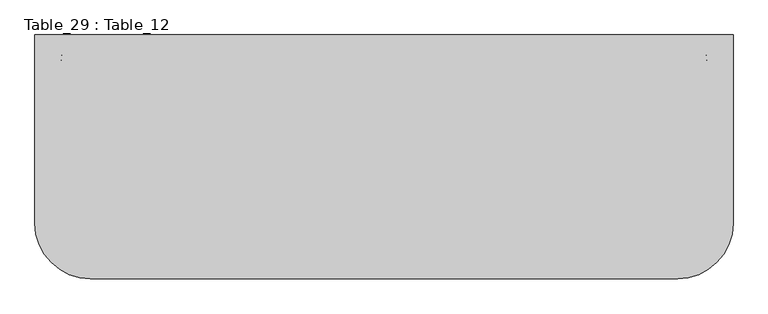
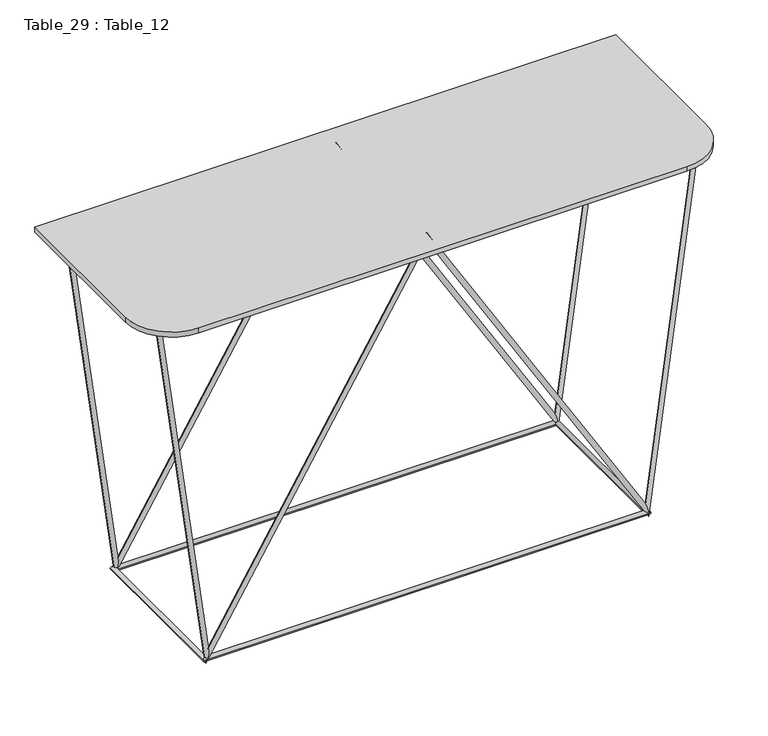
"""IFC4 building model written with IfcOpenShell, lengths in millimetres: furniture geometry, Table_29 : Table_12."""

from ifc_helpers import new_model, si_unit, point, frame, frame_2d, origin, place, context, project, spatial, polyline, circle_curve, ellipse_curve, trimmed, segment, composite_curve, outline, extrude, source, transform, mapped, element, save
from ifc_brep_helpers import plane_surface, cylinder_surface, advanced_brep


def table_29_table_12_be3ec3c2(model_context):
    return source(origin(), model_context, "Body", "SolidModel", [
        advanced_brep(
        [(3216.8861049, 23635.2163811, 4203.6384104), (3226.798891, 23635.2163811, 4204.9562392), (3324.364843, 23635.2163811, 3395.1770046), (3330.5116173, 23635.2163811, 3424.8229954), (3804.7002124, 23635.2163811, 4194.5893047), (3804.7002124, 23635.2163811, 4214.0053449), (4285.0355819, 23635.2163811, 3395.1770046), (4278.8888075, 23635.2163811, 3424.8229954), (4392.5143199, 23635.2163811, 4203.6384104), (4382.6015339, 23635.2163811, 4204.9562392)],
        [
            (0, 1, circle_curve(frame((3221.8424979, 23635.2163811, 4204.2973248), z_axis=(-0.13178288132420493, 0.0, 0.991278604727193), x_axis=(0.991278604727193, 0.0, 0.13178288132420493)), 5.0)),
            (1, 0, circle_curve(frame((3221.8424979, 23635.2163811, 4204.2973248), z_axis=(-0.13178288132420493, 0.0, 0.991278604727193), x_axis=(0.991278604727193, 0.0, 0.13178288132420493)), 5.0)),
            (0, 2),
            (2, 3, ellipse_curve(frame((3327.4382301, 23635.2163811, 3410.0), z_axis=(-0.9791743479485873, 0.0, 0.20302117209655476), x_axis=(0.20302117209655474, 0.0, 0.9791743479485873)), 15.1382595, 5.0)),
            (3, 1),
            (3, 2, ellipse_curve(frame((3327.4382301, 23635.2163811, 3410.0), z_axis=(-0.9791743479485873, 0.0, 0.20302117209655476), x_axis=(0.20302117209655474, 0.0, 0.9791743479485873)), 15.1382595, 5.0)),
            (2, 4),
            (4, 5, ellipse_curve(frame((3804.7002124, 23635.2163811, 4204.2973248), z_axis=(-1.0, 0.0, 0.0), x_axis=(0.0, 0.0, -1.0)), 9.7080201, 5.0)),
            (5, 3),
            (5, 4, ellipse_curve(frame((3804.7002124, 23635.2163811, 4204.2973248), z_axis=(-1.0, 0.0, 0.0), x_axis=(0.0, 0.0, -1.0)), 9.7080201, 5.0)),
            (4, 6),
            (6, 7, ellipse_curve(frame((4281.9621947, 23635.2163811, 3410.0), z_axis=(-0.9791743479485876, 0.0, -0.20302117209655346), x_axis=(-0.20302117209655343, 0.0, 0.9791743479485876)), 15.1382595, 5.0)),
            (7, 5),
            (7, 6, ellipse_curve(frame((4281.9621947, 23635.2163811, 3410.0), z_axis=(-0.9791743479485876, 0.0, -0.20302117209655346), x_axis=(-0.20302117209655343, 0.0, 0.9791743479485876)), 15.1382595, 5.0)),
            (8, 9, circle_curve(frame((4387.5579269, 23635.2163811, 4204.2973248), z_axis=(0.1317828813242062, 0.0, 0.991278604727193), x_axis=(-0.991278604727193, 0.0, 0.1317828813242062)), 5.0)),
            (9, 8, circle_curve(frame((4387.5579269, 23635.2163811, 4204.2973248), z_axis=(0.1317828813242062, 0.0, 0.991278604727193), x_axis=(-0.991278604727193, 0.0, 0.1317828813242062)), 5.0)),
            (6, 8),
            (9, 7),
        ],
        [
            plane_surface(frame((3221.8424979, 23635.2163811, 4204.2973248), z_axis=(-0.13178288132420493, 0.0, 0.991278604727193), x_axis=(0.0, 1.0, 0.0))),
            cylinder_surface(frame((3221.8424979, 23635.2163811, 4204.2973248), z_axis=(-0.13178288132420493, 0.0, 0.991278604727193), x_axis=(0.991278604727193, 0.0, 0.13178288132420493)), 5.0),
            cylinder_surface(frame((3327.4382301, 23635.2163811, 3410.0), z_axis=(-0.5150380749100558, 0.0, -0.8571673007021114), x_axis=(-0.8571673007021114, 0.0, 0.5150380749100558)), 5.0),
            cylinder_surface(frame((3804.7002124, 23635.2163811, 4204.2973248), z_axis=(-0.515038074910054, 0.0, 0.8571673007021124), x_axis=(0.8571673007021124, 0.0, 0.515038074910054)), 5.0),
            plane_surface(frame((4387.5579269, 23635.2163811, 4204.2973248), z_axis=(0.13178288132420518, 0.0, 0.9912786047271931), x_axis=(0.0, 1.0, 0.0))),
            cylinder_surface(frame((4281.9621947, 23635.2163811, 3410.0), z_axis=(-0.1317828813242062, 0.0, -0.991278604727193), x_axis=(-0.991278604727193, 0.0, 0.1317828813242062)), 5.0),
        ],
        [
            (0, [[1, 2]]),
            (1, [[-1, 3, 4, 5]]),
            (1, [[-2, -5, 6, -3]]),
            (2, [[-4, 7, 8, 9]]),
            (2, [[-6, -9, 10, -7]]),
            (3, [[-8, 11, 12, 13]]),
            (3, [[-10, -13, 14, -11]]),
            (4, [[15, 16]]),
            (5, [[-12, 17, -16, 18]]),
            (5, [[-14, -18, -15, -17]]),
        ],
    ),
        advanced_brep(
        [(3216.8861049, 23295.2163811, 4203.6384104), (3226.798891, 23295.2163811, 4204.9562392), (3324.364843, 23295.2163811, 3395.1770046), (3330.5116173, 23295.2163811, 3424.8229954), (3804.7002124, 23295.2163811, 4194.5893047), (3804.7002124, 23295.2163811, 4214.0053449), (4285.0355819, 23295.2163811, 3395.1770046), (4278.8888075, 23295.2163811, 3424.8229954), (4392.5143199, 23295.2163811, 4203.6384104), (4382.6015339, 23295.2163811, 4204.9562392)],
        [
            (0, 1, circle_curve(frame((3221.8424979, 23295.2163811, 4204.2973248), z_axis=(-0.13178288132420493, 0.0, 0.991278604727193), x_axis=(0.991278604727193, 0.0, 0.13178288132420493)), 5.0)),
            (1, 0, circle_curve(frame((3221.8424979, 23295.2163811, 4204.2973248), z_axis=(-0.13178288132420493, 0.0, 0.991278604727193), x_axis=(0.991278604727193, 0.0, 0.13178288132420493)), 5.0)),
            (0, 2),
            (2, 3, ellipse_curve(frame((3327.4382301, 23295.2163811, 3410.0), z_axis=(-0.9791743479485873, 0.0, 0.20302117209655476), x_axis=(0.20302117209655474, 0.0, 0.9791743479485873)), 15.1382595, 5.0)),
            (3, 1),
            (3, 2, ellipse_curve(frame((3327.4382301, 23295.2163811, 3410.0), z_axis=(-0.9791743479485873, 0.0, 0.20302117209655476), x_axis=(0.20302117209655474, 0.0, 0.9791743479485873)), 15.1382595, 5.0)),
            (2, 4),
            (4, 5, ellipse_curve(frame((3804.7002124, 23295.2163811, 4204.2973248), z_axis=(-1.0, 0.0, 0.0), x_axis=(0.0, 0.0, -1.0)), 9.7080201, 5.0)),
            (5, 3),
            (5, 4, ellipse_curve(frame((3804.7002124, 23295.2163811, 4204.2973248), z_axis=(-1.0, 0.0, 0.0), x_axis=(0.0, 0.0, -1.0)), 9.7080201, 5.0)),
            (4, 6),
            (6, 7, ellipse_curve(frame((4281.9621947, 23295.2163811, 3410.0), z_axis=(-0.9791743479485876, 0.0, -0.20302117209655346), x_axis=(-0.20302117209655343, 0.0, 0.9791743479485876)), 15.1382595, 5.0)),
            (7, 5),
            (7, 6, ellipse_curve(frame((4281.9621947, 23295.2163811, 3410.0), z_axis=(-0.9791743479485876, 0.0, -0.20302117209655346), x_axis=(-0.20302117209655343, 0.0, 0.9791743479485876)), 15.1382595, 5.0)),
            (8, 9, circle_curve(frame((4387.5579269, 23295.2163811, 4204.2973248), z_axis=(0.1317828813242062, 0.0, 0.991278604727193), x_axis=(-0.991278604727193, 0.0, 0.1317828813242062)), 5.0)),
            (9, 8, circle_curve(frame((4387.5579269, 23295.2163811, 4204.2973248), z_axis=(0.1317828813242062, 0.0, 0.991278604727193), x_axis=(-0.991278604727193, 0.0, 0.1317828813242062)), 5.0)),
            (6, 8),
            (9, 7),
        ],
        [
            plane_surface(frame((3221.8424979, 23295.2163811, 4204.2973248), z_axis=(-0.13178288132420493, 0.0, 0.991278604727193), x_axis=(0.0, 1.0, 0.0))),
            cylinder_surface(frame((3221.8424979, 23295.2163811, 4204.2973248), z_axis=(-0.13178288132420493, 0.0, 0.991278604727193), x_axis=(0.991278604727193, 0.0, 0.13178288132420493)), 5.0),
            cylinder_surface(frame((3327.4382301, 23295.2163811, 3410.0), z_axis=(-0.5150380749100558, 0.0, -0.8571673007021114), x_axis=(-0.8571673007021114, 0.0, 0.5150380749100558)), 5.0),
            cylinder_surface(frame((3804.7002124, 23295.2163811, 4204.2973248), z_axis=(-0.515038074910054, 0.0, 0.8571673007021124), x_axis=(0.8571673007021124, 0.0, 0.515038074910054)), 5.0),
            plane_surface(frame((4387.5579269, 23295.2163811, 4204.2973248), z_axis=(0.13178288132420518, 0.0, 0.9912786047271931), x_axis=(0.0, 1.0, 0.0))),
            cylinder_surface(frame((4281.9621947, 23295.2163811, 3410.0), z_axis=(-0.1317828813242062, 0.0, -0.991278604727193), x_axis=(-0.991278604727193, 0.0, 0.1317828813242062)), 5.0),
        ],
        [
            (0, [[1, 2]]),
            (1, [[-1, 3, 4, 5]]),
            (1, [[-2, -5, 6, -3]]),
            (2, [[-4, 7, 8, 9]]),
            (2, [[-6, -9, 10, -7]]),
            (3, [[-8, 11, 12, 13]]),
            (3, [[-10, -13, 14, -11]]),
            (4, [[15, 16]]),
            (5, [[-12, 17, -16, 18]]),
            (5, [[-14, -18, -15, -17]]),
        ],
    ),
        advanced_brep(
        [(4277.5579269, 23630.2145632, 3405.0), (4287.5579269, 23640.2145632, 3405.0), (4287.5579269, 23290.2145632, 3405.0), (4277.5579269, 23300.2145632, 3405.0), (3317.5579269, 23290.2145632, 3405.0), (3327.5579269, 23300.2145632, 3405.0), (3317.5579269, 23640.2145632, 3405.0), (3327.5579269, 23630.2145632, 3405.0)],
        [
            (0, 1, ellipse_curve(frame((4282.5579269, 23635.2145632, 3405.0), z_axis=(0.7071067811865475, -0.7071067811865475, 0.0), x_axis=(0.7071067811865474, 0.7071067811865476, 0.0)), 7.0710678, 5.0)),
            (1, 2),
            (2, 3, ellipse_curve(frame((4282.5579269, 23295.2145632, 3405.0), z_axis=(0.7071067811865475, 0.7071067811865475, 0.0), x_axis=(-0.7071067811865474, 0.7071067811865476, 0.0)), 7.0710678, 5.0)),
            (3, 0),
            (1, 0, ellipse_curve(frame((4282.5579269, 23635.2145632, 3405.0), z_axis=(0.7071067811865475, -0.7071067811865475, 0.0), x_axis=(0.7071067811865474, 0.7071067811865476, 0.0)), 7.0710678, 5.0)),
            (3, 2, ellipse_curve(frame((4282.5579269, 23295.2145632, 3405.0), z_axis=(0.7071067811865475, 0.7071067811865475, 0.0), x_axis=(-0.7071067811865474, 0.7071067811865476, 0.0)), 7.0710678, 5.0)),
            (2, 4),
            (4, 5, ellipse_curve(frame((3322.5579269, 23295.2145632, 3405.0), z_axis=(0.7071067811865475, -0.7071067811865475, 0.0), x_axis=(0.7071067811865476, 0.7071067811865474, 0.0)), 7.0710678, 5.0)),
            (5, 3),
            (5, 4, ellipse_curve(frame((3322.5579269, 23295.2145632, 3405.0), z_axis=(0.7071067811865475, -0.7071067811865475, 0.0), x_axis=(0.7071067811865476, 0.7071067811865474, 0.0)), 7.0710678, 5.0)),
            (4, 6),
            (6, 7, ellipse_curve(frame((3322.5579269, 23635.2145632, 3405.0), z_axis=(-0.7071067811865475, -0.7071067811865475, 0.0), x_axis=(0.7071067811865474, -0.7071067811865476, 0.0)), 7.0710678, 5.0)),
            (7, 5),
            (7, 6, ellipse_curve(frame((3322.5579269, 23635.2145632, 3405.0), z_axis=(-0.7071067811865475, -0.7071067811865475, 0.0), x_axis=(0.7071067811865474, -0.7071067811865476, 0.0)), 7.0710678, 5.0)),
            (6, 1),
            (0, 7),
        ],
        [
            cylinder_surface(frame((4282.5579269, 23635.2145632, 3405.0), z_axis=(0.0, 1.0, 0.0), x_axis=(-1.0, 0.0, 0.0)), 5.0),
            cylinder_surface(frame((4282.5579269, 23295.2145632, 3405.0), z_axis=(1.0, 0.0, 0.0), x_axis=(0.0, 1.0, 0.0)), 5.0),
            cylinder_surface(frame((3322.5579269, 23295.2145632, 3405.0), z_axis=(0.0, -1.0, 0.0), x_axis=(1.0, 0.0, 0.0)), 5.0),
            cylinder_surface(frame((3322.5579269, 23635.2145632, 3405.0), z_axis=(-1.0, 0.0, 0.0), x_axis=(0.0, -1.0, 0.0)), 5.0),
        ],
        [
            (0, [[1, 2, 3, 4]]),
            (0, [[5, -4, 6, -2]]),
            (1, [[-3, 7, 8, 9]]),
            (1, [[-6, -9, 10, -7]]),
            (2, [[-8, 11, 12, 13]]),
            (2, [[-10, -13, 14, -11]]),
            (3, [[-12, 15, -1, 16]]),
            (3, [[-14, -16, -5, -15]]),
        ],
    ),
        extrude(outline(composite_curve([segment(polyline([(4434.7002124, 23676.2868684), (4434.7002124, 23336.2868684)]), True, "CONTINUOUS"), segment(trimmed(circle_curve(frame_2d((4334.7002124, 23336.2868684)), 100.0), [point((4434.7002124, 23336.2868684))], [point((4334.7002124, 23236.2868684))], False, "CARTESIAN"), True, "CONTINUOUS"), segment(polyline([(4334.7002124, 23236.2868684), (3274.7002124, 23236.2868684)]), True, "CONTINUOUS"), segment(trimmed(circle_curve(frame_2d((3274.7002124, 23336.2868684)), 100.0), [point((3274.7002124, 23236.2868684))], [point((3174.7002124, 23336.2868684))], False, "CARTESIAN"), True, "CONTINUOUS"), segment(polyline([(3174.7002124, 23336.2868684), (3174.7002124, 23676.2868684), (4434.7002124, 23676.2868684)]), True, "CONTINUOUS")], self_intersect=False)), frame((0.0, 0.0, 4204.2973248), z_axis=(0.0, 0.0, 1.0), x_axis=(1.0, 0.0, 0.0)), (0.0, 0.0, 1.0), 11.2108083),
    ])


if __name__ == "__main__":
    model = new_model("IFC4")
    model_context = context("Model", 3, world=origin())
    ifc_project = project(units=[si_unit("LENGTHUNIT", "METRE", prefix="MILLI")], contexts=[model_context])
    site = spatial("IfcSite", under=ifc_project)
    building = spatial("IfcBuilding", under=site)
    placement = place(None, origin())
    table_29_table_12_shape = table_29_table_12_be3ec3c2(model_context)
    element("IfcFurniture", 1, ObjectType="Table_29 : Table_12", at=placement, inside=building, context=model_context, shape_type="MappedRepresentation", body=[
        mapped(table_29_table_12_shape, transform((0.0, 0.0, 0.0), x_axis=(1.0, 0.0, 0.0), y_axis=(0.0, 1.0, 0.0), z_axis=(0.0, 0.0, 1.0))),
    ])
    save(model, "model.ifc")
